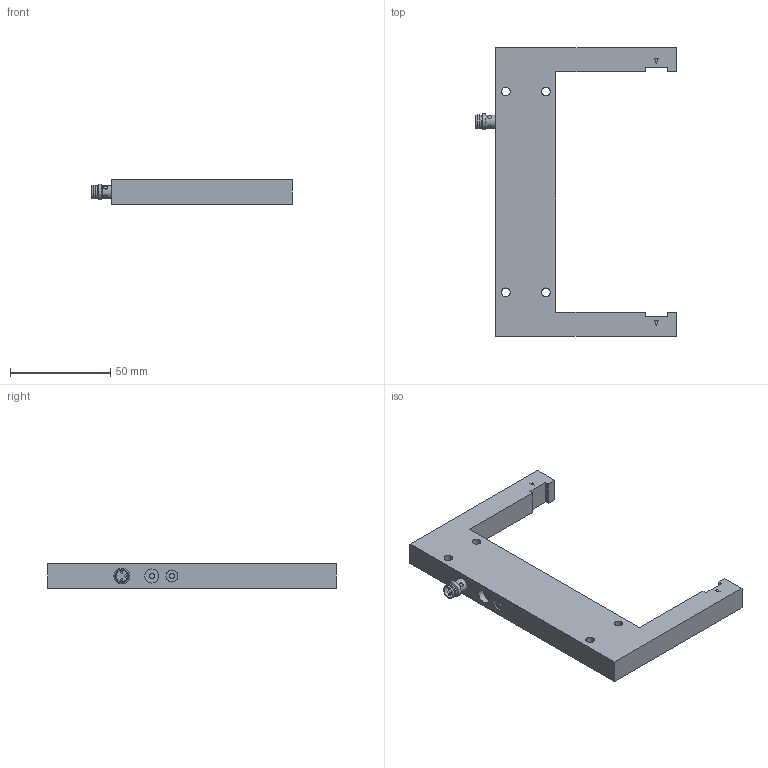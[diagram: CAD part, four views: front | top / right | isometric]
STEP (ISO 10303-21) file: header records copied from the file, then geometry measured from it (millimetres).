
FILE_DESCRIPTION( ( 'Unknown' ), '1' );
FILE_NAME( 'X:/SolidEdge/Models/Dokumentationen/Opto/di-soric/Vereinfachte Modelle/Neutralformate/FGUM 120.stp', 'Unknown', ( 'Unknown' ), ( 'Unknown' ), 'PSStep 15.0.49', 'Unknown', ' ' );
FILE_SCHEMA( ( 'AUTOMOTIVE_DESIGN { 1 0 10303 214 1 1 1 1 }' ) );
Length unit declared in the file: millimetre
Products named in the file (1): 110113
Bounding box: 100 x 144 x 12 mm (x, y, z)
Volume: 68001 mm3; surface area: 19603 mm2
Topology: 1 solids, 1 shells, 105 faces, 253 edges, 164 vertices
Faces by surface type: plane 74, cylinder 24, cone 4, sphere 3
Full cylindrical faces by diameter (mm): 1 x3, 2 x4, 2.5 x2, 4.3 x4, 5.77 x1, 6 x1, 6.5 x2, 6.9 x1, 7 x1, 8 x1
Entity records: 3910 total; most frequent: CARTESIAN_POINT 742, DIRECTION 452, ORIENTED_EDGE 430, EDGE_CURVE 215, LINE 174, VECTOR 174, EDGE_LOOP 158, VERTEX_POINT 157
